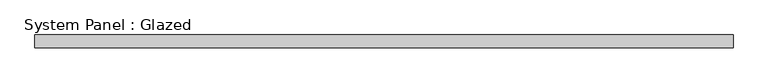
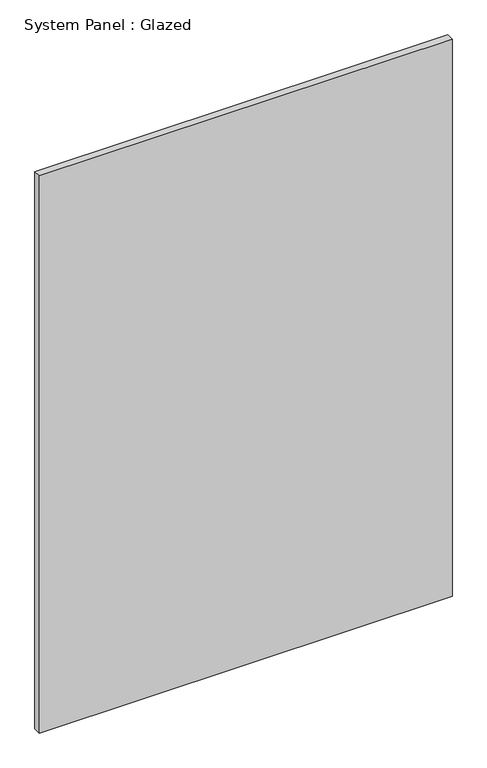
"""IFC4 building model written with IfcOpenShell, lengths in millimetres: plate geometry, System Panel : Glazed."""

from ifc_helpers import new_model, si_unit, origin, origin_with_axes, place, context, project, spatial, polyline, outline, extrude, source, transform, mapped, element, save


def system_panel_glazed_3dcc306c(model_context):
    return source(origin(), model_context, "Body", "SweptSolid", [
        extrude(outline(polyline([(694.2581768, 19.05), (-694.2581768, 19.05), (-694.2581768, 44.45), (694.2581768, 44.45), (694.2581768, 19.05)])), origin_with_axes(), (0.0, 0.0, 1.0), 1981.2),
    ])


if __name__ == "__main__":
    model = new_model("IFC4")
    model_context = context("Model", 3, world=origin())
    ifc_project = project(units=[si_unit("LENGTHUNIT", "METRE", prefix="MILLI")], contexts=[model_context])
    site = spatial("IfcSite", under=ifc_project)
    building = spatial("IfcBuilding", under=site)
    placement = place(None, origin())
    system_panel_glazed_shape = system_panel_glazed_3dcc306c(model_context)
    element("IfcPlate", 1, ObjectType="System Panel : Glazed", at=placement, inside=building, context=model_context, shape_type="MappedRepresentation", body=[
        mapped(system_panel_glazed_shape, transform((0.0, 0.0, 0.0), x_axis=(1.0, 0.0, 0.0), y_axis=(0.0, 1.0, 0.0), z_axis=(0.0, 0.0, 1.0))),
    ])
    save(model, "model.ifc")
